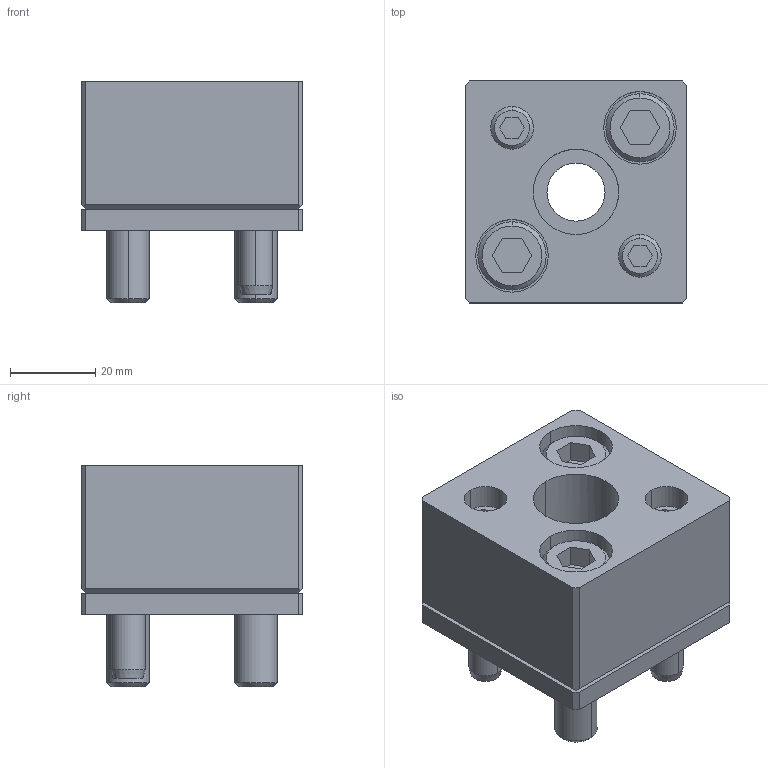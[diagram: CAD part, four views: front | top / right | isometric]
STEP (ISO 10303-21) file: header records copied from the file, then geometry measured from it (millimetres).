
FILE_DESCRIPTION(/* description */ (''),/* implementation_level */ '2;1');
FILE_NAME(/* name */ '3d_sr-fd20_05476_r00.stp',/* time_stamp */ '2011-01-10T14:09:59+09:00',/* author */ ('MISUMI'),/* organization */ (''),/* preprocessor_version */ 'ST-DEVELOPER v11',/* originating_system */ 'UGS - NX 5.0',/* authorisation */ '');
FILE_SCHEMA (('CONFIG_CONTROL_DESIGN'));
Length unit declared in the file: millimetre
Products named in the file (1): 3d_sr-fd20_05476_r00
Bounding box: 52 x 52 x 52 mm (x, y, z)
Volume: 82667.6 mm3; surface area: 30178.2 mm2
Topology: 8 solids, 8 shells, 159 faces, 364 edges, 235 vertices
Faces by surface type: plane 78, cylinder 55, cone 26
Entity records: 4634 total; most frequent: DIRECTION 814, CARTESIAN_POINT 804, ORIENTED_EDGE 728, EDGE_CURVE 364, AXIS2_PLACEMENT_3D 297, VERTEX_POINT 235, LINE 220, VECTOR 220
